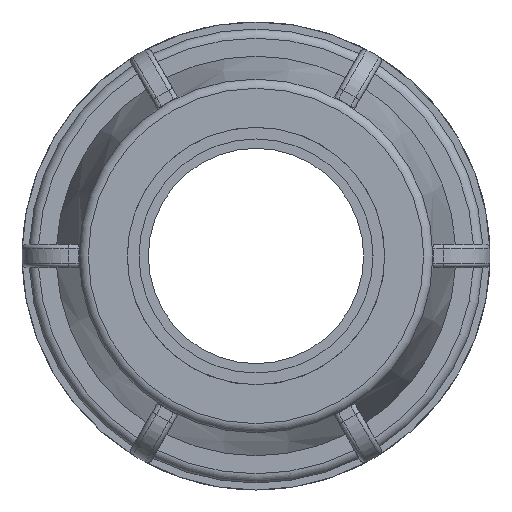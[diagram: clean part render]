
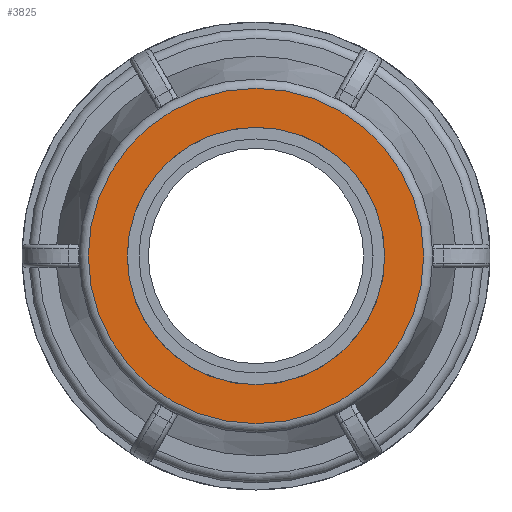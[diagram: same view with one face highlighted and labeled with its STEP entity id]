
A CAD part, left-side view. The second image highlights one B-rep face of the part: STEP entity #3825.
In plain terms, the highlighted planar face has unit normal (-1, 0, 0).
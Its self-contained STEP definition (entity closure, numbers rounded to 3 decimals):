
#204=FACE_BOUND('',#687,.T.);
#269=PLANE('',#4188);
#439=FACE_OUTER_BOUND('',#686,.T.);
#686=EDGE_LOOP('',(#3117));
#687=EDGE_LOOP('',(#3118));
#1388=CIRCLE('',#4185,17.911);
#1390=CIRCLE('',#4189,13.75);
#1707=VERTEX_POINT('',#6910);
#1709=VERTEX_POINT('',#6916);
#2204=EDGE_CURVE('',#1707,#1707,#1388,.T.);
#2206=EDGE_CURVE('',#1709,#1709,#1390,.T.);
#3117=ORIENTED_EDGE('',*,*,#2204,.F.);
#3118=ORIENTED_EDGE('',*,*,#2206,.T.);
#3825=ADVANCED_FACE('',(#439,#204),#269,.F.);
#4185=AXIS2_PLACEMENT_3D('',#6911,#5033,#5034);
#4188=AXIS2_PLACEMENT_3D('',#6915,#5039,#5040);
#4189=AXIS2_PLACEMENT_3D('',#6917,#5041,#5042);
#5033=DIRECTION('center_axis',(1.,0.,0.));
#5034=DIRECTION('ref_axis',(0.,-1.,0.));
#5039=DIRECTION('center_axis',(1.,0.,0.));
#5040=DIRECTION('ref_axis',(0.,0.,-1.));
#5041=DIRECTION('center_axis',(1.,0.,0.));
#5042=DIRECTION('ref_axis',(0.,0.,-1.));
#6910=CARTESIAN_POINT('',(-49.,17.911,0.));
#6911=CARTESIAN_POINT('Origin',(-49.,0.,0.));
#6915=CARTESIAN_POINT('Origin',(-49.,13.75,0.));
#6916=CARTESIAN_POINT('',(-49.,13.75,0.));
#6917=CARTESIAN_POINT('Origin',(-49.,0.,0.));
